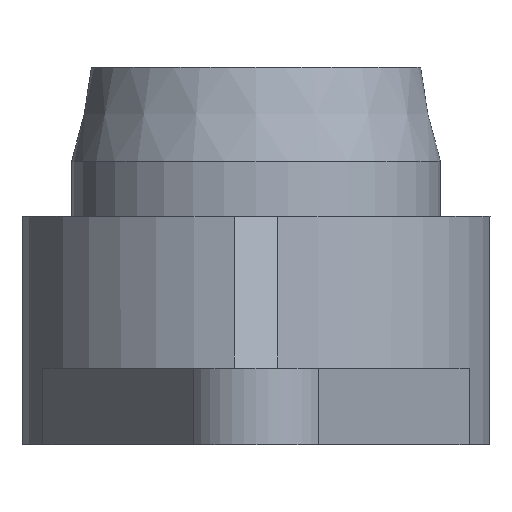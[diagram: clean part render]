
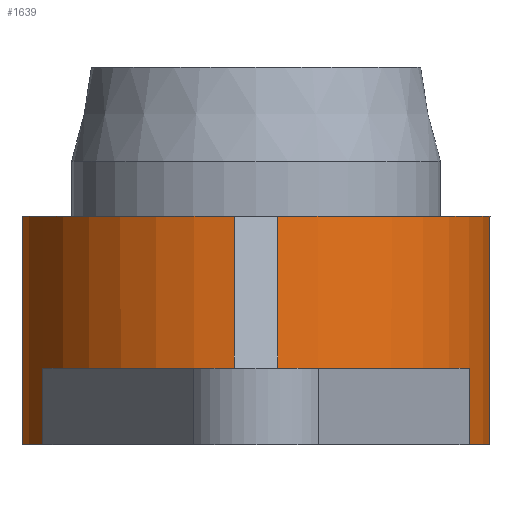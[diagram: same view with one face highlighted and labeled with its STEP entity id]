
A CAD part, front view. The second image highlights one B-rep face of the part: STEP entity #1639.
In plain terms, the highlighted cylindrical face has radius 35 mm (diameter 70 mm), a partial arc.
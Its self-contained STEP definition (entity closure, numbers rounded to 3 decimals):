
#132=FACE_BOUND('',#265,.T.);
#167=FACE_OUTER_BOUND('',#264,.T.);
#264=EDGE_LOOP('',(#1093,#1094,#1095,#1096,#1097,#1098,#1099,#1100));
#265=EDGE_LOOP('',(#1101,#1102));
#389=B_SPLINE_CURVE_WITH_KNOTS('',3,(#2636,#2637,#2638,#2639,#2640,#2641,
#2642,#2643,#2644,#2645,#2646,#2647,#2648,#2649,#2650,#2651,#2652,#2653),
 .UNSPECIFIED.,.F.,.F.,(4,2,2,2,2,2,2,2,4),(0.375,0.469,
0.563,0.657,0.75,0.844,
0.938,1.032,1.125),.UNSPECIFIED.);
#390=B_SPLINE_CURVE_WITH_KNOTS('',3,(#2654,#2655,#2656,#2657,#2658,#2659,
#2660,#2661,#2662,#2663,#2664,#2665,#2666,#2667,#2668,#2669,#2670,#2671,
#2672),.UNSPECIFIED.,.F.,.F.,(4,2,2,2,3,2,2,2,4),(1.125,1.219,
1.313,1.407,1.501,1.594,1.688,
1.782,1.876),.UNSPECIFIED.);
#402=LINE('',#2620,#491);
#403=LINE('',#2624,#492);
#404=LINE('',#2628,#493);
#405=LINE('',#2632,#494);
#491=VECTOR('',#2075,10.);
#492=VECTOR('',#2078,10.);
#493=VECTOR('',#2081,10.);
#494=VECTOR('',#2084,10.);
#586=CIRCLE('',#1851,35.);
#587=CIRCLE('',#1852,35.);
#588=CIRCLE('',#1853,35.);
#589=CIRCLE('',#1854,35.);
#693=VERTEX_POINT('',#2618);
#694=VERTEX_POINT('',#2619);
#695=VERTEX_POINT('',#2621);
#696=VERTEX_POINT('',#2623);
#697=VERTEX_POINT('',#2625);
#698=VERTEX_POINT('',#2627);
#699=VERTEX_POINT('',#2629);
#700=VERTEX_POINT('',#2631);
#701=VERTEX_POINT('',#2634);
#702=VERTEX_POINT('',#2635);
#856=EDGE_CURVE('',#693,#694,#402,.T.);
#857=EDGE_CURVE('',#695,#694,#586,.T.);
#858=EDGE_CURVE('',#696,#695,#403,.T.);
#859=EDGE_CURVE('',#696,#697,#587,.T.);
#860=EDGE_CURVE('',#697,#698,#404,.T.);
#861=EDGE_CURVE('',#699,#698,#588,.T.);
#862=EDGE_CURVE('',#699,#700,#405,.T.);
#863=EDGE_CURVE('',#700,#693,#589,.T.);
#864=EDGE_CURVE('',#701,#702,#389,.T.);
#865=EDGE_CURVE('',#702,#701,#390,.T.);
#1093=ORIENTED_EDGE('',*,*,#856,.T.);
#1094=ORIENTED_EDGE('',*,*,#857,.F.);
#1095=ORIENTED_EDGE('',*,*,#858,.F.);
#1096=ORIENTED_EDGE('',*,*,#859,.T.);
#1097=ORIENTED_EDGE('',*,*,#860,.T.);
#1098=ORIENTED_EDGE('',*,*,#861,.F.);
#1099=ORIENTED_EDGE('',*,*,#862,.T.);
#1100=ORIENTED_EDGE('',*,*,#863,.T.);
#1101=ORIENTED_EDGE('',*,*,#864,.T.);
#1102=ORIENTED_EDGE('',*,*,#865,.T.);
#1546=CYLINDRICAL_SURFACE('',#1850,35.);
#1639=ADVANCED_FACE('',(#167,#132),#1546,.T.);
#1850=AXIS2_PLACEMENT_3D('',#2617,#2073,#2074);
#1851=AXIS2_PLACEMENT_3D('',#2622,#2076,#2077);
#1852=AXIS2_PLACEMENT_3D('',#2626,#2079,#2080);
#1853=AXIS2_PLACEMENT_3D('',#2630,#2082,#2083);
#1854=AXIS2_PLACEMENT_3D('',#2633,#2085,#2086);
#2073=DIRECTION('center_axis',(0.,0.,1.));
#2074=DIRECTION('ref_axis',(0.,1.,0.));
#2075=DIRECTION('',(0.,0.,-1.));
#2076=DIRECTION('center_axis',(0.,0.,
-1.));
#2077=DIRECTION('ref_axis',(-1.,0.,0.));
#2078=DIRECTION('',(0.,0.,1.));
#2079=DIRECTION('center_axis',(0.,0.,1.));
#2080=DIRECTION('ref_axis',(0.907,-0.421,0.));
#2081=DIRECTION('',(0.,0.,1.));
#2082=DIRECTION('center_axis',(0.,0.,
-1.));
#2083=DIRECTION('ref_axis',(-1.,0.,0.));
#2084=DIRECTION('',(0.,0.,1.));
#2085=DIRECTION('center_axis',(0.,0.,-1.));
#2086=DIRECTION('ref_axis',(-1.,0.,0.));
#2617=CARTESIAN_POINT('Origin',(0.,0.,-21.8));
#2618=CARTESIAN_POINT('',(3.25,-34.849,12.2));
#2619=CARTESIAN_POINT('',(3.25,-34.849,-10.4));
#2620=CARTESIAN_POINT('',(3.25,-34.849,-21.8));
#2621=CARTESIAN_POINT('',(31.75,-14.729,-10.4));
#2622=CARTESIAN_POINT('Origin',(0.,0.,-10.4));
#2623=CARTESIAN_POINT('',(31.75,-14.729,-21.8));
#2624=CARTESIAN_POINT('',(31.75,-14.729,-21.8));
#2625=CARTESIAN_POINT('',(-31.75,-14.729,-21.8));
#2626=CARTESIAN_POINT('Origin',(0.,0.,-21.8));
#2627=CARTESIAN_POINT('',(-31.75,-14.729,-10.4));
#2628=CARTESIAN_POINT('',(-31.75,-14.729,-21.8));
#2629=CARTESIAN_POINT('',(-3.25,-34.849,-10.4));
#2630=CARTESIAN_POINT('Origin',(0.,0.,-10.4));
#2631=CARTESIAN_POINT('',(-3.25,-34.849,12.2));
#2632=CARTESIAN_POINT('',(-3.25,-34.849,-21.8));
#2633=CARTESIAN_POINT('Origin',(0.,0.,12.2));
#2634=CARTESIAN_POINT('',(-24.749,24.749,1.711));
#2635=CARTESIAN_POINT('',(-24.749,24.749,6.689));
#2636=CARTESIAN_POINT('Ctrl Pts',(-24.749,24.749,1.711));
#2637=CARTESIAN_POINT('Ctrl Pts',(-24.528,24.97,1.711));
#2638=CARTESIAN_POINT('Ctrl Pts',(-24.289,25.202,1.774));
#2639=CARTESIAN_POINT('Ctrl Pts',(-23.843,25.624,2.028));
#2640=CARTESIAN_POINT('Ctrl Pts',(-23.637,25.814,2.219));
#2641=CARTESIAN_POINT('Ctrl Pts',(-23.309,26.11,2.661));
#2642=CARTESIAN_POINT('Ctrl Pts',(-23.165,26.237,2.941));
#2643=CARTESIAN_POINT('Ctrl Pts',(-22.974,26.405,3.554));
#2644=CARTESIAN_POINT('Ctrl Pts',(-22.926,26.446,3.887));
#2645=CARTESIAN_POINT('Ctrl Pts',(-22.926,26.446,4.513));
#2646=CARTESIAN_POINT('Ctrl Pts',(-22.974,26.405,4.846));
#2647=CARTESIAN_POINT('Ctrl Pts',(-23.165,26.237,5.459));
#2648=CARTESIAN_POINT('Ctrl Pts',(-23.309,26.11,5.739));
#2649=CARTESIAN_POINT('Ctrl Pts',(-23.637,25.814,6.181));
#2650=CARTESIAN_POINT('Ctrl Pts',(-23.843,25.624,6.372));
#2651=CARTESIAN_POINT('Ctrl Pts',(-24.289,25.202,6.626));
#2652=CARTESIAN_POINT('Ctrl Pts',(-24.528,24.97,6.689));
#2653=CARTESIAN_POINT('Ctrl Pts',(-24.749,24.749,6.689));
#2654=CARTESIAN_POINT('Ctrl Pts',(-24.749,24.749,6.689));
#2655=CARTESIAN_POINT('Ctrl Pts',(-24.97,24.528,6.689));
#2656=CARTESIAN_POINT('Ctrl Pts',(-25.202,24.289,6.626));
#2657=CARTESIAN_POINT('Ctrl Pts',(-25.624,23.843,6.372));
#2658=CARTESIAN_POINT('Ctrl Pts',(-25.814,23.637,6.181));
#2659=CARTESIAN_POINT('Ctrl Pts',(-26.11,23.309,5.739));
#2660=CARTESIAN_POINT('Ctrl Pts',(-26.237,23.165,5.459));
#2661=CARTESIAN_POINT('Ctrl Pts',(-26.405,22.974,4.846));
#2662=CARTESIAN_POINT('Ctrl Pts',(-26.446,22.926,4.513));
#2663=CARTESIAN_POINT('Ctrl Pts',(-26.446,22.926,4.2));
#2664=CARTESIAN_POINT('Ctrl Pts',(-26.446,22.926,3.887));
#2665=CARTESIAN_POINT('Ctrl Pts',(-26.405,22.974,3.554));
#2666=CARTESIAN_POINT('Ctrl Pts',(-26.237,23.165,2.941));
#2667=CARTESIAN_POINT('Ctrl Pts',(-26.11,23.309,2.661));
#2668=CARTESIAN_POINT('Ctrl Pts',(-25.814,23.637,2.219));
#2669=CARTESIAN_POINT('Ctrl Pts',(-25.624,23.843,2.028));
#2670=CARTESIAN_POINT('Ctrl Pts',(-25.202,24.289,1.774));
#2671=CARTESIAN_POINT('Ctrl Pts',(-24.97,24.528,1.711));
#2672=CARTESIAN_POINT('Ctrl Pts',(-24.749,24.749,1.711));
